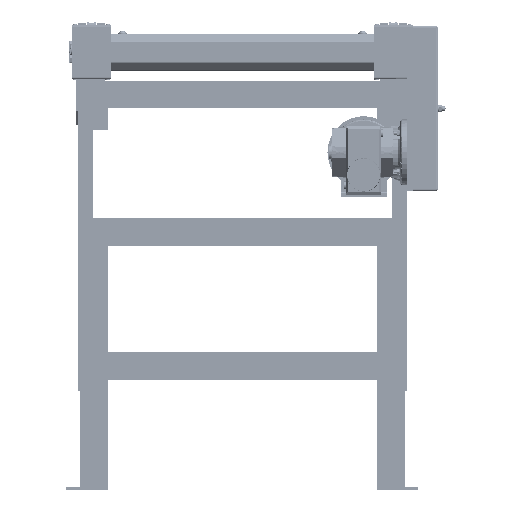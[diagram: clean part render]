
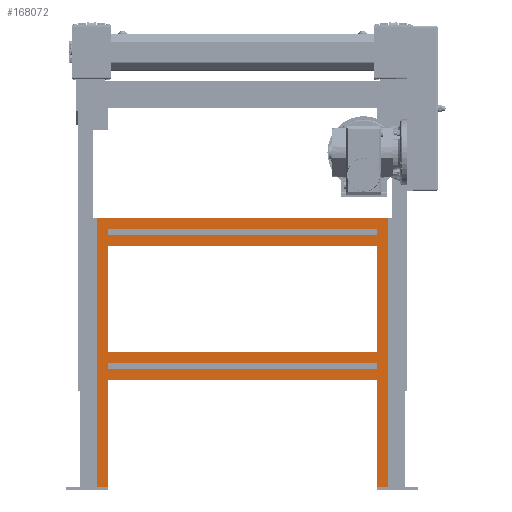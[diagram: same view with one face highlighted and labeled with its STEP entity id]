
A CAD part, front view. The second image highlights one B-rep face of the part: STEP entity #168072.
In plain terms, the highlighted planar face has unit normal (0, -1, 0).
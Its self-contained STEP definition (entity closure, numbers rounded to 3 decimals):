
#5997=FACE_BOUND('',#31920,.T.);
#5998=FACE_BOUND('',#31921,.T.);
#5999=FACE_BOUND('',#31922,.T.);
#21979=FACE_OUTER_BOUND('',#31919,.T.);
#31919=EDGE_LOOP('',(#113441,#113442,#113443,#113444,#113445,#113446,#113447,
#113448));
#31920=EDGE_LOOP('',(#113449,#113450,#113451,#113452));
#31921=EDGE_LOOP('',(#113453,#113454,#113455,#113456));
#31922=EDGE_LOOP('',(#113457,#113458,#113459,#113460));
#47672=LINE('',#255360,#58931);
#47867=LINE('',#255763,#59126);
#47869=LINE('',#255769,#59128);
#47901=LINE('',#255836,#59160);
#47909=LINE('',#255853,#59168);
#47931=LINE('',#255897,#59190);
#48025=LINE('',#256080,#59284);
#48208=LINE('',#256440,#59467);
#48212=LINE('',#256447,#59471);
#48224=LINE('',#256471,#59483);
#48227=LINE('',#256477,#59486);
#48251=LINE('',#256524,#59510);
#48254=LINE('',#256530,#59513);
#48261=LINE('',#256540,#59520);
#48295=LINE('',#256608,#59554);
#48307=LINE('',#256632,#59566);
#48309=LINE('',#256635,#59568);
#48329=LINE('',#256673,#59588);
#48360=LINE('',#256731,#59619);
#48361=LINE('',#256732,#59620);
#58931=VECTOR('',#202830,19.95);
#59126=VECTOR('',#203139,194.5);
#59128=VECTOR('',#203143,194.5);
#59160=VECTOR('',#203189,10.1);
#59168=VECTOR('',#203199,10.1);
#59190=VECTOR('',#203233,489.);
#59284=VECTOR('',#203391,19.95);
#59467=VECTOR('',#203748,491.);
#59471=VECTOR('',#203754,491.);
#59483=VECTOR('',#203778,491.);
#59486=VECTOR('',#203783,491.);
#59510=VECTOR('',#203829,194.5);
#59513=VECTOR('',#203838,194.5);
#59520=VECTOR('',#203847,10.1);
#59554=VECTOR('',#203909,491.);
#59566=VECTOR('',#203933,491.);
#59568=VECTOR('',#203937,491.);
#59588=VECTOR('',#203981,10.1);
#59619=VECTOR('',#204032,530.9);
#59620=VECTOR('',#204033,489.);
#69533=VERTEX_POINT('',#255357);
#69534=VERTEX_POINT('',#255359);
#69674=VERTEX_POINT('',#255740);
#69685=VERTEX_POINT('',#255761);
#69687=VERTEX_POINT('',#255766);
#69688=VERTEX_POINT('',#255768);
#69715=VERTEX_POINT('',#255833);
#69716=VERTEX_POINT('',#255835);
#69722=VERTEX_POINT('',#255849);
#69724=VERTEX_POINT('',#255852);
#69738=VERTEX_POINT('',#255893);
#69740=VERTEX_POINT('',#255896);
#69886=VERTEX_POINT('',#256437);
#69889=VERTEX_POINT('',#256444);
#69895=VERTEX_POINT('',#256469);
#69897=VERTEX_POINT('',#256474);
#69909=VERTEX_POINT('',#256522);
#69931=VERTEX_POINT('',#256605);
#69937=VERTEX_POINT('',#256630);
#69960=VERTEX_POINT('',#256730);
#86486=EDGE_CURVE('',#69533,#69534,#47672,.T.);
#86691=EDGE_CURVE('',#69685,#69674,#47867,.T.);
#86693=EDGE_CURVE('',#69687,#69688,#47869,.T.);
#86725=EDGE_CURVE('',#69715,#69716,#47901,.T.);
#86733=EDGE_CURVE('',#69722,#69724,#47909,.T.);
#86755=EDGE_CURVE('',#69740,#69738,#47931,.T.);
#86849=EDGE_CURVE('',#69685,#69740,#48025,.T.);
#87034=EDGE_CURVE('',#69886,#69687,#48208,.T.);
#87038=EDGE_CURVE('',#69716,#69889,#48212,.T.);
#87050=EDGE_CURVE('',#69715,#69895,#48224,.T.);
#87053=EDGE_CURVE('',#69674,#69897,#48227,.T.);
#87077=EDGE_CURVE('',#69886,#69909,#48251,.T.);
#87080=EDGE_CURVE('',#69533,#69897,#48254,.T.);
#87087=EDGE_CURVE('',#69895,#69889,#48261,.T.);
#87121=EDGE_CURVE('',#69724,#69931,#48295,.T.);
#87133=EDGE_CURVE('',#69722,#69937,#48307,.T.);
#87135=EDGE_CURVE('',#69688,#69909,#48309,.T.);
#87155=EDGE_CURVE('',#69937,#69931,#48329,.T.);
#87186=EDGE_CURVE('',#69960,#69738,#48360,.T.);
#87187=EDGE_CURVE('',#69534,#69960,#48361,.T.);
#113441=ORIENTED_EDGE('',*,*,#87053,.F.);
#113442=ORIENTED_EDGE('',*,*,#86691,.F.);
#113443=ORIENTED_EDGE('',*,*,#86849,.T.);
#113444=ORIENTED_EDGE('',*,*,#86755,.T.);
#113445=ORIENTED_EDGE('',*,*,#87186,.F.);
#113446=ORIENTED_EDGE('',*,*,#87187,.F.);
#113447=ORIENTED_EDGE('',*,*,#86486,.F.);
#113448=ORIENTED_EDGE('',*,*,#87080,.T.);
#113449=ORIENTED_EDGE('',*,*,#87034,.F.);
#113450=ORIENTED_EDGE('',*,*,#87077,.T.);
#113451=ORIENTED_EDGE('',*,*,#87135,.F.);
#113452=ORIENTED_EDGE('',*,*,#86693,.F.);
#113453=ORIENTED_EDGE('',*,*,#87038,.F.);
#113454=ORIENTED_EDGE('',*,*,#86725,.F.);
#113455=ORIENTED_EDGE('',*,*,#87050,.T.);
#113456=ORIENTED_EDGE('',*,*,#87087,.T.);
#113457=ORIENTED_EDGE('',*,*,#87121,.F.);
#113458=ORIENTED_EDGE('',*,*,#86733,.F.);
#113459=ORIENTED_EDGE('',*,*,#87133,.T.);
#113460=ORIENTED_EDGE('',*,*,#87155,.T.);
#152966=PLANE('',#178295);
#168072=ADVANCED_FACE('',(#21979,#5997,#5998,#5999),#152966,.T.);
#178295=AXIS2_PLACEMENT_3D('',#256729,#204030,#204031);
#202830=DIRECTION('',(-1.,0.,0.));
#203139=DIRECTION('',(0.,0.,1.));
#203143=DIRECTION('',(0.,0.,1.));
#203189=DIRECTION('',(0.,0.,1.));
#203199=DIRECTION('',(0.,0.,1.));
#203233=DIRECTION('',(0.,0.,1.));
#203391=DIRECTION('',(1.,0.,0.));
#203748=DIRECTION('',(1.,0.,0.));
#203754=DIRECTION('',(-1.,0.,0.));
#203778=DIRECTION('',(-1.,0.,0.));
#203783=DIRECTION('',(-1.,0.,0.));
#203829=DIRECTION('',(0.,0.,1.));
#203838=DIRECTION('',(0.,0.,1.));
#203847=DIRECTION('',(0.,0.,1.));
#203909=DIRECTION('',(-1.,0.,0.));
#203933=DIRECTION('',(-1.,0.,0.));
#203937=DIRECTION('',(-1.,0.,0.));
#203981=DIRECTION('',(0.,0.,1.));
#204030=DIRECTION('center_axis',(0.,-1.,0.));
#204031=DIRECTION('ref_axis',(0.,0.,1.));
#204032=DIRECTION('',(1.,0.,0.));
#204033=DIRECTION('',(0.,0.,1.));
#255357=CARTESIAN_POINT('',(-245.5,-825.,6.));
#255359=CARTESIAN_POINT('',(-265.45,-825.,6.));
#255360=CARTESIAN_POINT('',(-264.25,-825.,6.));
#255740=CARTESIAN_POINT('',(245.5,-825.,200.5));
#255761=CARTESIAN_POINT('',(245.5,-825.,6.));
#255763=CARTESIAN_POINT('',(245.5,-825.,6.));
#255766=CARTESIAN_POINT('',(245.5,-825.,250.5));
#255768=CARTESIAN_POINT('',(245.5,-825.,445.));
#255769=CARTESIAN_POINT('',(245.5,-825.,6.));
#255833=CARTESIAN_POINT('',(245.5,-825.,220.45));
#255835=CARTESIAN_POINT('',(245.5,-825.,230.55));
#255836=CARTESIAN_POINT('',(245.5,-825.,6.));
#255849=CARTESIAN_POINT('',(245.5,-825.,464.95));
#255852=CARTESIAN_POINT('',(245.5,-825.,475.05));
#255853=CARTESIAN_POINT('',(245.5,-825.,6.));
#255893=CARTESIAN_POINT('',(265.45,-825.,495.));
#255896=CARTESIAN_POINT('',(265.45,-825.,6.));
#255897=CARTESIAN_POINT('',(265.45,-825.,6.));
#256080=CARTESIAN_POINT('',(264.25,-825.,6.));
#256437=CARTESIAN_POINT('',(-245.5,-825.,250.5));
#256440=CARTESIAN_POINT('',(0.,-825.,250.5));
#256444=CARTESIAN_POINT('',(-245.5,-825.,230.55));
#256447=CARTESIAN_POINT('',(0.,-825.,230.55));
#256469=CARTESIAN_POINT('',(-245.5,-825.,220.45));
#256471=CARTESIAN_POINT('',(0.,-825.,220.45));
#256474=CARTESIAN_POINT('',(-245.5,-825.,200.5));
#256477=CARTESIAN_POINT('',(0.,-825.,200.5));
#256522=CARTESIAN_POINT('',(-245.5,-825.,445.));
#256524=CARTESIAN_POINT('',(-245.5,-825.,6.));
#256530=CARTESIAN_POINT('',(-245.5,-825.,6.));
#256540=CARTESIAN_POINT('',(-245.5,-825.,6.));
#256605=CARTESIAN_POINT('',(-245.5,-825.,475.05));
#256608=CARTESIAN_POINT('',(0.,-825.,475.05));
#256630=CARTESIAN_POINT('',(-245.5,-825.,464.95));
#256632=CARTESIAN_POINT('',(0.,-825.,464.95));
#256635=CARTESIAN_POINT('',(0.,-825.,445.));
#256673=CARTESIAN_POINT('',(-245.5,-825.,6.));
#256729=CARTESIAN_POINT('Origin',(-245.5,-825.,6.));
#256730=CARTESIAN_POINT('',(-265.45,-825.,495.));
#256731=CARTESIAN_POINT('',(265.45,-825.,495.));
#256732=CARTESIAN_POINT('',(-265.45,-825.,6.));
